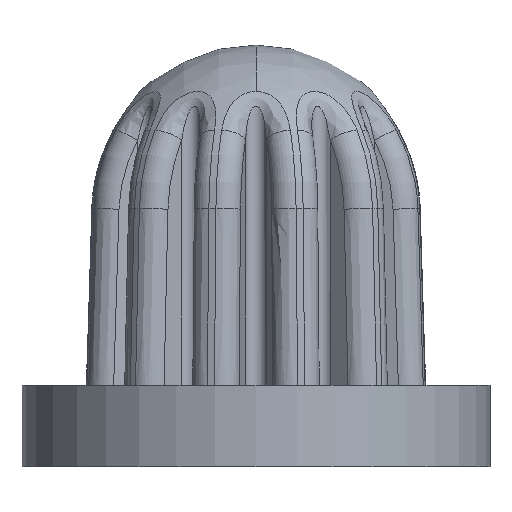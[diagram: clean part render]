
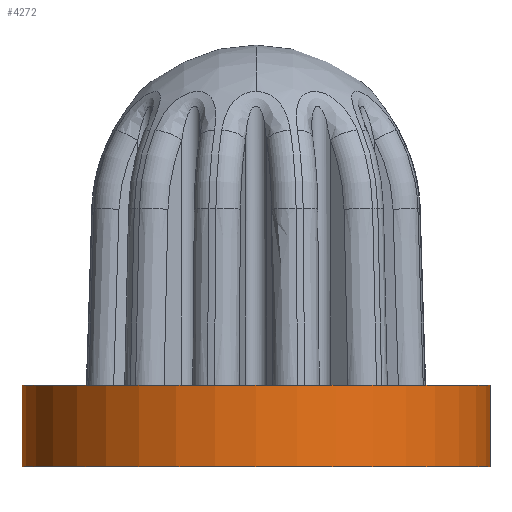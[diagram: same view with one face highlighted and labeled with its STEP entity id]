
A CAD part, front view. The second image highlights one B-rep face of the part: STEP entity #4272.
In plain terms, the highlighted cylindrical face has radius 2.184 mm (diameter 4.369 mm), a partial arc.
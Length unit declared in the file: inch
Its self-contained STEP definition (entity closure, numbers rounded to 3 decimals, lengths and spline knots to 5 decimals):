
#438 = DIRECTION ( 'NONE',  ( 0., 0., 1. ) ) ;
#664 = CARTESIAN_POINT ( 'NONE',  ( 0., 0., -0.03 ) ) ;
#1874 = LINE ( 'NONE', #10647, #11948 ) ;
#2080 = EDGE_CURVE ( 'NONE', #16729, #5318, #11946, .T. ) ;
#2893 = DIRECTION ( 'NONE',  ( 1., 0., 0. ) ) ;
#2981 = FACE_OUTER_BOUND ( 'NONE', #7532, .T. ) ;
#3199 = EDGE_CURVE ( 'NONE', #8890, #10015, #6691, .T. ) ;
#3241 = ORIENTED_EDGE ( 'NONE', *, *, #2080, .T. ) ;
#3446 = AXIS2_PLACEMENT_3D ( 'NONE', #664, #15931, #2893 ) ;
#3641 = ORIENTED_EDGE ( 'NONE', *, *, #3199, .F. ) ;
#4190 = ORIENTED_EDGE ( 'NONE', *, *, #14360, .F. ) ;
#4272 = ADVANCED_FACE ( 'NONE', ( #2981 ), #5560, .T. ) ;
#5318 = VERTEX_POINT ( 'NONE', #5461 ) ;
#5461 = CARTESIAN_POINT ( 'NONE',  ( -0.086, 0., 0. ) ) ;
#5560 = CYLINDRICAL_SURFACE ( 'NONE', #3446, 0.086 ) ;
#5812 = CARTESIAN_POINT ( 'NONE',  ( 0., 0., 0. ) ) ;
#6637 = CARTESIAN_POINT ( 'NONE',  ( 0.086, 0., 0. ) ) ;
#6691 = CIRCLE ( 'NONE', #13521, 0.086 ) ;
#7532 = EDGE_LOOP ( 'NONE', ( #4190, #3641, #14204, #3241 ) ) ;
#7602 = DIRECTION ( 'NONE',  ( -1., 0., 0. ) ) ;
#8890 = VERTEX_POINT ( 'NONE', #9824 ) ;
#9590 = EDGE_CURVE ( 'NONE', #8890, #16729, #12151, .T. ) ;
#9824 = CARTESIAN_POINT ( 'NONE',  ( 0.086, 0., -0.03 ) ) ;
#9885 = DIRECTION ( 'NONE',  ( 0., 0., -1. ) ) ;
#10015 = VERTEX_POINT ( 'NONE', #16817 ) ;
#10647 = CARTESIAN_POINT ( 'NONE',  ( -0.086, 0., -0.03 ) ) ;
#11946 = CIRCLE ( 'NONE', #16578, 0.086 ) ;
#11948 = VECTOR ( 'NONE', #16021, 39.37008 ) ;
#12151 = LINE ( 'NONE', #15877, #14383 ) ;
#13521 = AXIS2_PLACEMENT_3D ( 'NONE', #13967, #14224, #7602 ) ;
#13967 = CARTESIAN_POINT ( 'NONE',  ( 0., 0., -0.03 ) ) ;
#14204 = ORIENTED_EDGE ( 'NONE', *, *, #9590, .T. ) ;
#14224 = DIRECTION ( 'NONE',  ( 0., 0., -1. ) ) ;
#14360 = EDGE_CURVE ( 'NONE', #10015, #5318, #1874, .T. ) ;
#14383 = VECTOR ( 'NONE', #438, 39.37008 ) ;
#15877 = CARTESIAN_POINT ( 'NONE',  ( 0.086, 0., -0.03 ) ) ;
#15931 = DIRECTION ( 'NONE',  ( 0., 0., 1. ) ) ;
#16021 = DIRECTION ( 'NONE',  ( 0., 0., 1. ) ) ;
#16382 = DIRECTION ( 'NONE',  ( -1., 0., 0. ) ) ;
#16578 = AXIS2_PLACEMENT_3D ( 'NONE', #5812, #9885, #16382 ) ;
#16729 = VERTEX_POINT ( 'NONE', #6637 ) ;
#16817 = CARTESIAN_POINT ( 'NONE',  ( -0.086, 0., -0.03 ) ) ;
